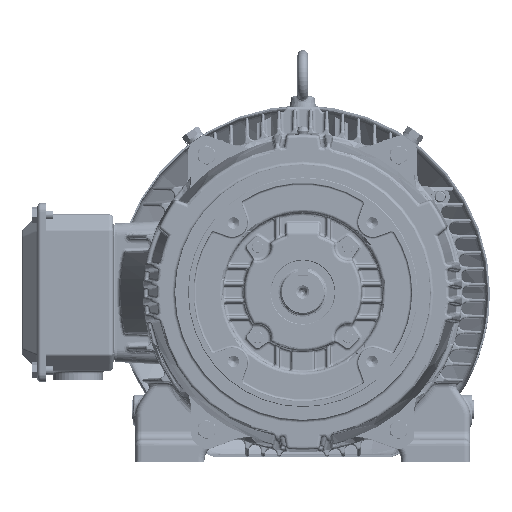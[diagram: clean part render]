
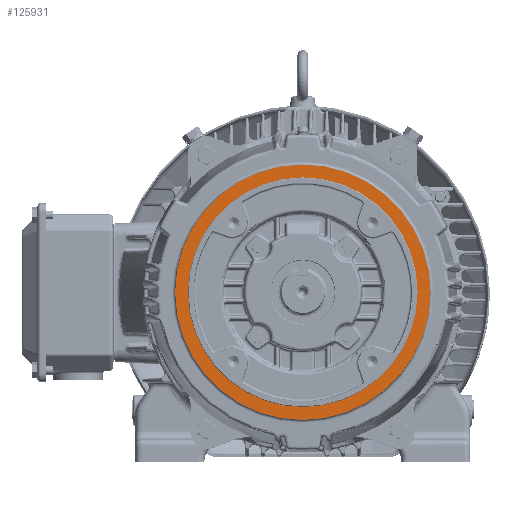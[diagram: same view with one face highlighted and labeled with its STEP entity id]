
A CAD part, top view. The second image highlights one B-rep face of the part: STEP entity #125931.
In plain terms, the highlighted planar face has unit normal (0, 0, 1).
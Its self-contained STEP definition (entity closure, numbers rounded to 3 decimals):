
#1670 = AXIS2_PLACEMENT_3D ( 'NONE', #273204, #32506, #257157 ) ;
#6347 = CIRCLE ( 'NONE', #66604, 4.724 ) ;
#25348 = VERTEX_POINT ( 'NONE', #237506 ) ;
#32506 = DIRECTION ( 'NONE',  ( 0., 0., 1. ) ) ;
#41277 = EDGE_LOOP ( 'NONE', ( #64692, #174086 ) ) ;
#44766 = EDGE_CURVE ( 'NONE', #25348, #227877, #177600, .T. ) ;
#49365 = CARTESIAN_POINT ( 'NONE',  ( 4.25, 0., 9.752 ) ) ;
#56182 = CIRCLE ( 'NONE', #269120, 4.724 ) ;
#64692 = ORIENTED_EDGE ( 'NONE', *, *, #121778, .F. ) ;
#66604 = AXIS2_PLACEMENT_3D ( 'NONE', #91890, #180283, #200581 ) ;
#91890 = CARTESIAN_POINT ( 'NONE',  ( 0., 0., 9.752 ) ) ;
#114356 = EDGE_CURVE ( 'NONE', #121593, #146195, #6347, .T. ) ;
#114423 = DIRECTION ( 'NONE',  ( 0., 0., -1. ) ) ;
#117266 = CARTESIAN_POINT ( 'NONE',  ( 0., 0., 9.752 ) ) ;
#121593 = VERTEX_POINT ( 'NONE', #144244 ) ;
#121778 = EDGE_CURVE ( 'NONE', #227877, #25348, #242812, .T. ) ;
#121863 = EDGE_LOOP ( 'NONE', ( #128290, #171367 ) ) ;
#123948 = DIRECTION ( 'NONE',  ( 0., 0., 1. ) ) ;
#124216 = PLANE ( 'NONE',  #197475 ) ;
#125364 = CARTESIAN_POINT ( 'NONE',  ( 0., 0., 9.752 ) ) ;
#125631 = DIRECTION ( 'NONE',  ( 0., 0., 1. ) ) ;
#125931 = ADVANCED_FACE ( 'NONE', ( #213990, #190873 ), #124216, .T. ) ;
#128290 = ORIENTED_EDGE ( 'NONE', *, *, #114356, .F. ) ;
#144244 = CARTESIAN_POINT ( 'NONE',  ( 4.724, 0., 9.752 ) ) ;
#146195 = VERTEX_POINT ( 'NONE', #172141 ) ;
#152797 = EDGE_CURVE ( 'NONE', #146195, #121593, #56182, .T. ) ;
#168717 = AXIS2_PLACEMENT_3D ( 'NONE', #125364, #123948, #190609 ) ;
#171367 = ORIENTED_EDGE ( 'NONE', *, *, #152797, .F. ) ;
#172141 = CARTESIAN_POINT ( 'NONE',  ( -4.724, 0., 9.752 ) ) ;
#174086 = ORIENTED_EDGE ( 'NONE', *, *, #44766, .F. ) ;
#177600 = CIRCLE ( 'NONE', #1670, 4.25 ) ;
#180283 = DIRECTION ( 'NONE',  ( 0., 0., -1. ) ) ;
#190609 = DIRECTION ( 'NONE',  ( 1., 0., 0. ) ) ;
#190873 = FACE_BOUND ( 'NONE', #41277, .T. ) ;
#193725 = CARTESIAN_POINT ( 'NONE',  ( 0., 4.921, 9.752 ) ) ;
#197475 = AXIS2_PLACEMENT_3D ( 'NONE', #193725, #125631, #276455 ) ;
#200581 = DIRECTION ( 'NONE',  ( 1., 0., 0. ) ) ;
#213990 = FACE_OUTER_BOUND ( 'NONE', #121863, .T. ) ;
#227877 = VERTEX_POINT ( 'NONE', #49365 ) ;
#237506 = CARTESIAN_POINT ( 'NONE',  ( -4.25, 0., 9.752 ) ) ;
#242812 = CIRCLE ( 'NONE', #168717, 4.25 ) ;
#257157 = DIRECTION ( 'NONE',  ( 1., 0., 0. ) ) ;
#269120 = AXIS2_PLACEMENT_3D ( 'NONE', #117266, #114423, #273765 ) ;
#273204 = CARTESIAN_POINT ( 'NONE',  ( 0., 0., 9.752 ) ) ;
#273765 = DIRECTION ( 'NONE',  ( 1., 0., 0. ) ) ;
#276455 = DIRECTION ( 'NONE',  ( 1., 0., 0. ) ) ;
